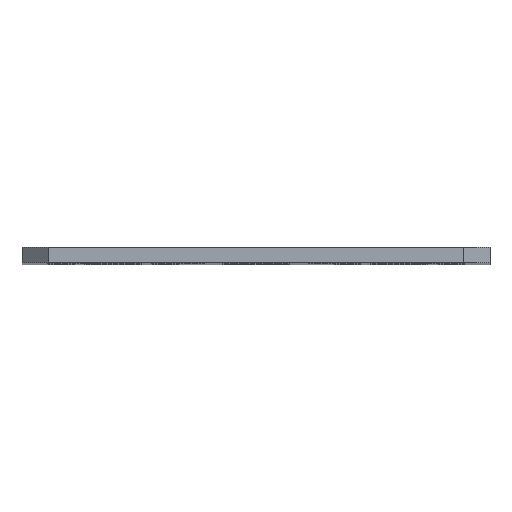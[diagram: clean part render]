
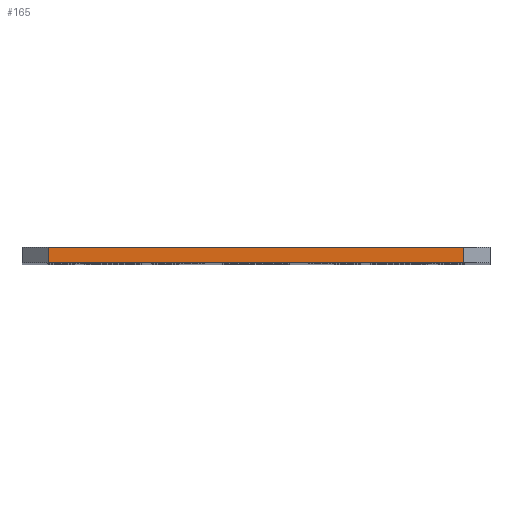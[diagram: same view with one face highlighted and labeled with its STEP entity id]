
A CAD part, top view. The second image highlights one B-rep face of the part: STEP entity #165.
In plain terms, the highlighted planar face has unit normal (0, 0, 1).
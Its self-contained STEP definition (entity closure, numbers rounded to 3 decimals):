
#24 = ORIENTED_EDGE ( 'NONE', *, *, #2377, .T. ) ;
#84 = EDGE_CURVE ( 'NONE', #3031, #1084, #1210, .T. ) ;
#112 = CARTESIAN_POINT ( 'NONE',  ( 5., 3., 0. ) ) ;
#123 = CARTESIAN_POINT ( 'NONE',  ( 5., 0., 0. ) ) ;
#165 = ADVANCED_FACE ( 'NONE', ( #2863 ), #1452, .F. ) ;
#298 = EDGE_LOOP ( 'NONE', ( #24, #1867, #2330, #1108 ) ) ;
#484 = VECTOR ( 'NONE', #2182, 1000. ) ;
#510 = CARTESIAN_POINT ( 'NONE',  ( 5., 3., 0. ) ) ;
#576 = DIRECTION ( 'NONE',  ( 1., 0., 0. ) ) ;
#755 = DIRECTION ( 'NONE',  ( 0., -1., 0. ) ) ;
#765 = DIRECTION ( 'NONE',  ( -1., 0., 0. ) ) ;
#962 = VECTOR ( 'NONE', #2197, 1000. ) ;
#990 = VERTEX_POINT ( 'NONE', #2927 ) ;
#1015 = DIRECTION ( 'NONE',  ( 0., 0., -1. ) ) ;
#1084 = VERTEX_POINT ( 'NONE', #1540 ) ;
#1104 = LINE ( 'NONE', #123, #484 ) ;
#1108 = ORIENTED_EDGE ( 'NONE', *, *, #2435, .T. ) ;
#1210 = LINE ( 'NONE', #1711, #2822 ) ;
#1452 = PLANE ( 'NONE',  #1889 ) ;
#1540 = CARTESIAN_POINT ( 'NONE',  ( 85., 0., 0. ) ) ;
#1711 = CARTESIAN_POINT ( 'NONE',  ( 85., 3., 0. ) ) ;
#1731 = VECTOR ( 'NONE', #576, 1000. ) ;
#1766 = CARTESIAN_POINT ( 'NONE',  ( 85., 3., 0. ) ) ;
#1867 = ORIENTED_EDGE ( 'NONE', *, *, #84, .F. ) ;
#1889 = AXIS2_PLACEMENT_3D ( 'NONE', #510, #1015, #765 ) ;
#2017 = LINE ( 'NONE', #112, #1731 ) ;
#2169 = LINE ( 'NONE', #2662, #962 ) ;
#2182 = DIRECTION ( 'NONE',  ( 1., 0., 0. ) ) ;
#2197 = DIRECTION ( 'NONE',  ( 0., -1., 0. ) ) ;
#2330 = ORIENTED_EDGE ( 'NONE', *, *, #2371, .F. ) ;
#2371 = EDGE_CURVE ( 'NONE', #2600, #3031, #2017, .T. ) ;
#2377 = EDGE_CURVE ( 'NONE', #990, #1084, #1104, .T. ) ;
#2435 = EDGE_CURVE ( 'NONE', #2600, #990, #2169, .T. ) ;
#2600 = VERTEX_POINT ( 'NONE', #2954 ) ;
#2662 = CARTESIAN_POINT ( 'NONE',  ( 5., 3., 0. ) ) ;
#2822 = VECTOR ( 'NONE', #755, 1000. ) ;
#2863 = FACE_OUTER_BOUND ( 'NONE', #298, .T. ) ;
#2927 = CARTESIAN_POINT ( 'NONE',  ( 5., 0., 0. ) ) ;
#2954 = CARTESIAN_POINT ( 'NONE',  ( 5., 3., 0. ) ) ;
#3031 = VERTEX_POINT ( 'NONE', #1766 ) ;
